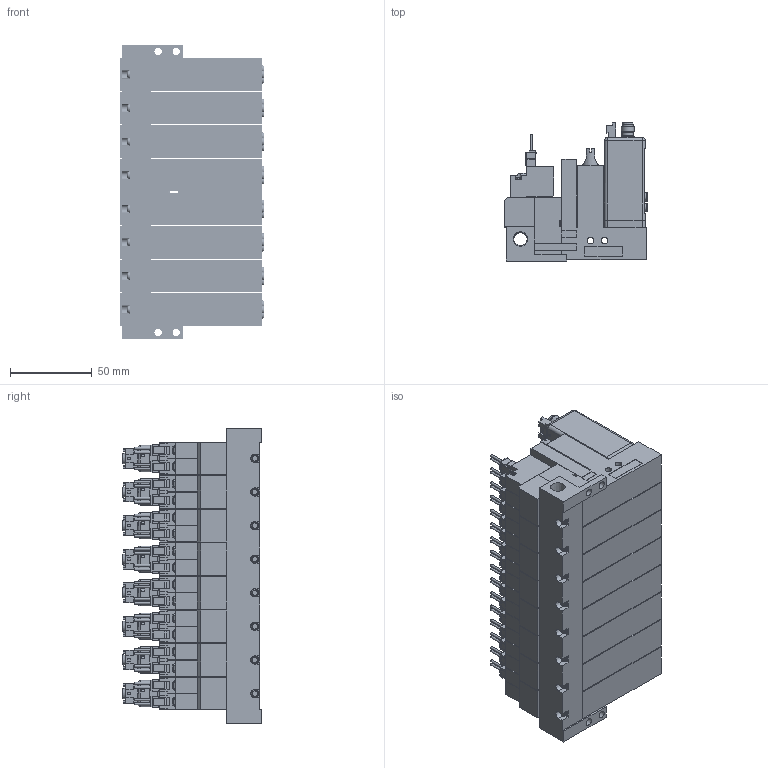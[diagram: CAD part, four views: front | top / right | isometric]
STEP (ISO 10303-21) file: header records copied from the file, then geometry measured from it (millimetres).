
FILE_DESCRIPTION(('STEP AP203'),'1');
FILE_NAME('22_22PL5BLR808.stp','2025-06-12T05:20:35',(' '),(' '),'Spatial InterOp 3D',' ',' ');
FILE_SCHEMA(('CONFIG_CONTROL_DESIGN'));
Length unit declared in the file: millimetre
Products named in the file (12): BMC22M※※※※22_22PL5BLR808; Solenoid valve B; Unit L; Base MR80R; MVS-202
Assembly tree (25 placements, depth 2):
  BMC22M※※※※22_22PL5BLR808
    Solenoid valve B  x8
    Unit L  x8
    Base MR80R
    MVS-202
    MVS-202
    MVS-202
    MVS-202
    MVS-202
    MVS-202
    MVS-202
    MVS-202
Bounding box: 87.5 x 84.6 x 179.5 mm (x, y, z)
Volume: 767977 mm3; surface area: 231382.3 mm2
Topology: 25 solids, 57 shells, 5973 faces, 15547 edges, 10160 vertices
Faces by surface type: plane 5022, cylinder 741, cone 130, torus 48, sphere 32
Full cylindrical faces by diameter (mm): 1 x32, 1.4 x32, 1.5 x8, 2.5 x8, 3 x32, 3.5 x32, 3.6 x8, 4 x16, 4.134 x8, 4.5 x36, 4.8 x24, 5 x16, 5.2 x8, 5.8 x16, 6 x16, 6.5 x24, 6.6 x8, 7 x8, 7.2 x8, 7.9 x8, 8 x16, 8.279 x1
Entity records: 113356 total; most frequent: CARTESIAN_POINT 20391, ORIENTED_EDGE 18528, DIRECTION 18328, EDGE_CURVE 9264, LINE 7796, VECTOR 7796, VERTEX_POINT 6269, AXIS2_PLACEMENT_3D 5266
